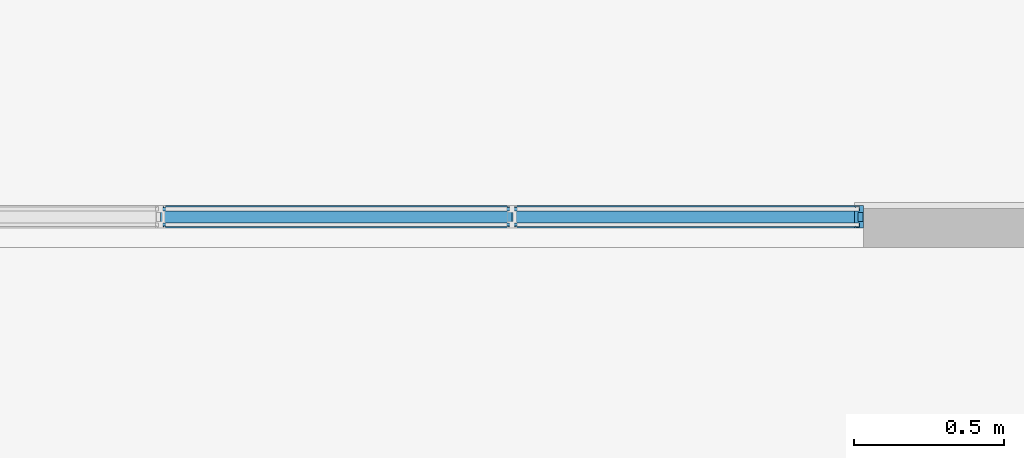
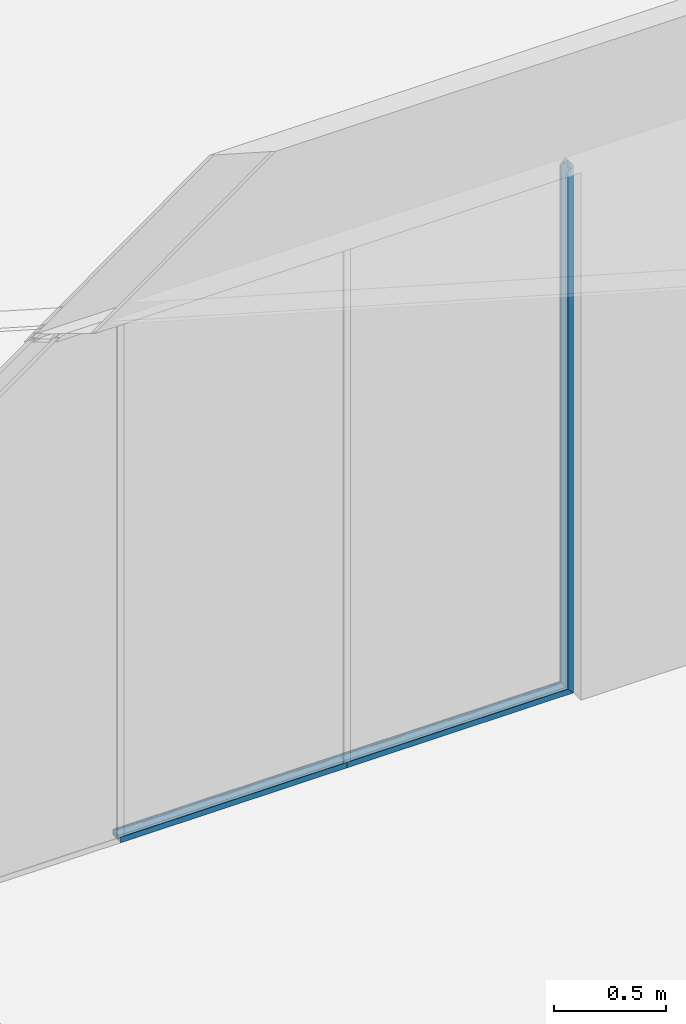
# One storey, part 17 of 43: 3 members, 1 element without a shape of its own.
"""IFC2X3 building model written with IfcOpenShell, lengths in millimetres."""

from ifc_helpers import new_model, entity, si_unit, converted_unit, derived_unit, money_unit, direction, frame, origin_with_axes, place, context, subcontext, project, spatial, faceted_brep, material, material_list, type_object, element, aggregate, save


model = new_model("IFC2X3")

# Units and contexts
model_context = context("Model", 3, precision=0.01, world=origin_with_axes(), true_north=direction((0.0, 1.0)))
body_context = subcontext(model_context, "Body", "Model", "MODEL_VIEW")
ifc_project = project(units=[si_unit("LENGTHUNIT", "METRE", prefix="MILLI"), si_unit("AREAUNIT", "SQUARE_METRE"), si_unit("VOLUMEUNIT", "CUBIC_METRE"), converted_unit("PLANEANGLEUNIT", "DEGREE", entity("IfcPlaneAngleMeasure", 0.0174532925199), si_unit("PLANEANGLEUNIT", "RADIAN"), dimensions=[0, 0, 0, 0, 0, 0, 0]), si_unit("SOLIDANGLEUNIT", "STERADIAN"), money_unit("EUR"), converted_unit("TIMEUNIT", "Year", entity("IfcTimeMeasure", 31556926.0), si_unit("TIMEUNIT", "SECOND"), dimensions=[0, 0, 1, 0, 0, 0, 0]), si_unit("MASSUNIT", "GRAM", prefix="KILO"), si_unit("THERMODYNAMICTEMPERATUREUNIT", "DEGREE_CELSIUS"), si_unit("LUMINOUSINTENSITYUNIT", "LUMEN"), si_unit("ENERGYUNIT", "JOULE", prefix="MEGA"), derived_unit("THERMALCONDUCTANCEUNIT", [(si_unit("POWERUNIT", "WATT"), 1), (si_unit("LENGTHUNIT", "METRE"), -1), (si_unit("THERMODYNAMICTEMPERATUREUNIT", "KELVIN"), -1)]), derived_unit("SPECIFICHEATCAPACITYUNIT", [(si_unit("ENERGYUNIT", "JOULE"), 1), (si_unit("MASSUNIT", "GRAM", prefix="KILO"), -1), (si_unit("THERMODYNAMICTEMPERATUREUNIT", "KELVIN"), -1)]), derived_unit("MASSDENSITYUNIT", [(si_unit("MASSUNIT", "GRAM", prefix="KILO"), 1), (si_unit("VOLUMEUNIT", "CUBIC_METRE"), -1)])], contexts=[model_context])

# Site, building, storey
site_placement = place(None, origin_with_axes())
site = spatial("IfcSite", under=ifc_project, at=site_placement, Name="L.Koidula tn 11b", CompositionType="ELEMENT")
building_placement = place(site_placement, origin_with_axes())
building = spatial("IfcBuilding", under=site, at=building_placement, Name="Rakvere Riigigümnaasium", CompositionType="ELEMENT")
storey_placement = place(building_placement, frame((0.0, 0.0, 6665.0), z_axis=(0.0, 0.0, 1.0), x_axis=(1.0, 0.0, 0.0)))
storey = spatial("IfcBuildingStorey", under=building, at=storey_placement, Name="3.korrus +6,66", CompositionType="ELEMENT", Elevation=6665.0)

# Curtain wall, members
curtain_wall_type = type_object("IfcCurtainWallType", Name="Curtain Wall Type", PredefinedType="NOTDEFINED")
curtain_wall_placement = place(storey_placement, frame((61105.020931, 24378.4555472, 0.0), z_axis=(0.0, 0.0, 1.0), x_axis=(1.0, 0.0, 0.0)))
curtain_wall = element("IfcCurtainWall", 1, at=curtain_wall_placement, inside=storey, type_object=curtain_wall_type, Name="SKLF-28")
ifc_material_1 = material(Name="Klaasvill")
ifc_material_2 = material(Name="Teras RAL7012")
ifc_material_list = material_list([ifc_material_1, ifc_material_2])
member_type = type_object("IfcMemberType", Name="Boundary Frame 30 x 42", PredefinedType="MULLION")
member_1_placement = place(curtain_wall_placement, frame((585.0, 0.0, 0.0), z_axis=(-1.0, 0.0, 0.0), x_axis=(0.0, 0.0, 1.0)))
member_1 = element("IfcMember", 2, at=member_1_placement, type_object=member_type, material=ifc_material_list, Name="SKLF-72-raam", ObjectType="MULLION", context=body_context, shape_type="Brep", body=[
    faceted_brep([(13.8499999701, 15.000000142, 13.8499999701), (13.8499999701, 15.000000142, 1170.0), (7.49999990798, 15.000000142, 1170.0), (7.49999990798, 15.000000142, 7.49999990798), (13.8499999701, 29.0161444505, 13.8499999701), (13.8499999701, 29.0161444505, 1170.0), (7.49999990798, 29.0161444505, 1170.0), (7.49999990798, 29.0161444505, 7.49999990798)], [[[0, 1, 2, 3]], [[4, 5, 1, 0]], [[2, 1, 5, 6]], [[3, 2, 6, 7]], [[3, 7, 4, 0]], [[7, 6, 5, 4]]]),
    faceted_brep([(25.004489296, 27.0307503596, 25.004489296), (25.004489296, 27.0307503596, 1170.0), (24.987414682, 29.0161444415, 1170.0), (24.987414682, 29.0161444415, 24.987414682), (25.742237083, 26.2930025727, 25.742237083), (25.742237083, 26.2930025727, 1170.0), (26.7500193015, 26.0229681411, 1170.0), (27.75780152, 26.2930025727, 1170.0), (28.4955493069, 27.0307503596, 1170.0), (28.7655837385, 28.0385325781, 1170.0), (28.5126239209, 29.0161444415, 1170.0), (28.5126239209, 29.0161444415, 28.5126239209), (28.7655837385, 28.0385325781, 28.7655837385), (28.4955493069, 27.0307503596, 28.4955493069), (27.75780152, 26.2930025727, 27.75780152), (26.7500193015, 26.0229681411, 26.7500193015)], [[[0, 1, 2, 3]], [[4, 5, 1, 0]], [[2, 1, 5, 6, 7, 8, 9, 10]], [[3, 2, 10, 11]], [[3, 11, 12, 13, 14, 15, 4, 0]], [[15, 6, 5, 4]], [[14, 7, 6, 15]], [[13, 8, 7, 14]], [[12, 9, 8, 13]], [[11, 10, 9, 12]]]),
    faceted_brep([(7.49999990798, -39.0161445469, 7.49999990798), (7.49999990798, -39.0161445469, 1170.0), (7.49999990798, -24.9999997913, 1170.0), (7.49999990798, -24.9999997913, 7.49999990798), (13.8499999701, -39.0161445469, 13.8499999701), (13.8499999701, -39.0161445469, 1170.0), (13.8499999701, -24.9999997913, 1170.0), (13.8499999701, -24.9999997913, 13.8499999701)], [[[0, 1, 2, 3]], [[4, 5, 1, 0]], [[2, 1, 5, 6]], [[3, 2, 6, 7]], [[3, 7, 4, 0]], [[7, 6, 5, 4]]]),
    faceted_brep([(24.987414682, -39.0161444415, 24.987414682), (24.987414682, -39.0161444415, 1170.0), (25.004489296, -37.0307503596, 1170.0), (25.004489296, -37.0307503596, 25.004489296), (28.5126239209, -39.0161444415, 28.5126239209), (28.5126239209, -39.0161444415, 1170.0), (28.7655837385, -38.0385325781, 1170.0), (28.4955493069, -37.0307503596, 1170.0), (27.75780152, -36.2930025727, 1170.0), (26.7500193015, -36.0229681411, 1170.0), (25.742237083, -36.2930025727, 1170.0), (25.742237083, -36.2930025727, 25.742237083), (26.7500193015, -36.0229681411, 26.7500193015), (27.75780152, -36.2930025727, 27.75780152), (28.4955493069, -37.0307503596, 28.4955493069), (28.7655837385, -38.0385325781, 28.7655837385)], [[[0, 1, 2, 3]], [[4, 5, 1, 0]], [[2, 1, 5, 6, 7, 8, 9, 10]], [[3, 2, 10, 11]], [[3, 11, 12, 13, 14, 15, 4, 0]], [[15, 6, 5, 4]], [[14, 7, 6, 15]], [[13, 8, 7, 14]], [[12, 9, 8, 13]], [[11, 10, 9, 12]]]),
    faceted_brep([(29.5999996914, -22.0000000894, 29.5999996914), (29.5999996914, -22.0000000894, 1170.0), (0.0, -22.0000000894, 1170.0), (0.0, -22.0000000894, 0.0), (29.5999996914, 12.0000000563, 29.5999996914), (29.5999996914, 12.0000000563, 1170.0), (0.0, 12.0000000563, 1170.0), (1.9999999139, 10.0000001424, 1170.0), (18.7999996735, 10.0000001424, 1170.0), (18.7999996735, -20.0000001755, 1170.0), (1.9999999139, -20.0000001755, 1170.0), (0.0, 12.0000000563, 0.0), (1.9999999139, 10.0000001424, 1.9999999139), (1.9999999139, -20.0000001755, 1.9999999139), (18.7999996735, -20.0000001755, 18.7999996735), (18.7999996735, 10.0000001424, 18.7999996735)], [[[0, 1, 2, 3]], [[4, 5, 1, 0]], [[2, 1, 5, 6], [7, 8, 9, 10]], [[3, 2, 6, 11]], [[3, 11, 4, 0], [12, 13, 14, 15]], [[11, 6, 5, 4]], [[15, 8, 7, 12]], [[14, 9, 8, 15]], [[13, 10, 9, 14]], [[12, 7, 10, 13]]]),
    faceted_brep([(29.5999996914, 12.0000000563, 29.5999996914), (29.5999996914, 12.0000000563, 1170.0), (0.0, 12.0, 1170.0), (0.0, 12.0, 0.0), (30.0000193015, 12.0, 30.0000193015), (30.0000193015, 12.0, 1170.0), (30.0000193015, 15.0, 1170.0), (13.8499999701, 15.000000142, 1170.0), (7.49999999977, 15.0, 1170.0), (7.49999999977, 29.0161444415, 1170.0), (13.8499999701, 29.0161444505, 1170.0), (24.987414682, 29.0161444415, 1170.0), (28.5126239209, 29.0161444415, 1170.0), (30.0000193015, 29.0161444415, 1170.0), (30.0000193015, 32.0, 1170.0), (0.0, 32.0, 1170.0), (0.0, 32.0, 0.0), (30.0000193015, 32.0, 30.0000193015), (30.0000193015, 29.0161444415, 30.0000193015), (28.5126239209, 29.0161444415, 28.5126239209), (24.987414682, 29.0161444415, 24.987414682), (13.8499999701, 29.0161444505, 13.8499999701), (7.49999999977, 29.0161444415, 7.49999999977), (7.49999999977, 15.0, 7.49999999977), (13.8499999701, 15.000000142, 13.8499999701), (30.0000193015, 15.0, 30.0000193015)], [[[0, 1, 2, 3]], [[4, 5, 1, 0]], [[2, 1, 5, 6, 7, 8, 9, 10, 11, 12, 13, 14, 15]], [[3, 2, 15, 16]], [[3, 16, 17, 18, 19, 20, 21, 22, 23, 24, 25, 4, 0]], [[25, 6, 5, 4]], [[24, 7, 6, 25]], [[23, 8, 7, 24]], [[22, 9, 8, 23]], [[21, 10, 9, 22]], [[20, 11, 10, 21]], [[19, 12, 11, 20]], [[18, 13, 12, 19]], [[17, 14, 13, 18]], [[16, 15, 14, 17]]]),
    faceted_brep([(0.0, -42.0, 0.0), (0.0, -42.0, 1170.0), (0.0, -22.0, 1170.0), (0.0, -22.0, 0.0), (30.0000193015, -42.0, 30.0000193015), (30.0000193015, -42.0, 1170.0), (30.0000193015, -39.0161444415, 1170.0), (28.5126239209, -39.0161444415, 1170.0), (24.987414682, -39.0161444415, 1170.0), (13.8499999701, -39.0161445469, 1170.0), (7.49999999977, -39.0161444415, 1170.0), (7.49999999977, -25.0, 1170.0), (13.8499999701, -24.9999997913, 1170.0), (30.0000193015, -25.0, 1170.0), (30.0000193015, -22.0, 1170.0), (29.5999996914, -22.0000000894, 1170.0), (29.5999996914, -22.0000000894, 29.5999996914), (30.0000193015, -22.0, 30.0000193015), (30.0000193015, -25.0, 30.0000193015), (13.8499999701, -24.9999997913, 13.8499999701), (7.49999999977, -25.0, 7.49999999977), (7.49999999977, -39.0161444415, 7.49999999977), (13.8499999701, -39.0161445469, 13.8499999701), (24.987414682, -39.0161444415, 24.987414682), (28.5126239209, -39.0161444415, 28.5126239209), (30.0000193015, -39.0161444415, 30.0000193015)], [[[0, 1, 2, 3]], [[4, 5, 1, 0]], [[2, 1, 5, 6, 7, 8, 9, 10, 11, 12, 13, 14, 15]], [[3, 2, 15, 16]], [[3, 16, 17, 18, 19, 20, 21, 22, 23, 24, 25, 4, 0]], [[25, 6, 5, 4]], [[24, 7, 6, 25]], [[23, 8, 7, 24]], [[22, 9, 8, 23]], [[21, 10, 9, 22]], [[20, 11, 10, 21]], [[19, 12, 11, 20]], [[18, 13, 12, 19]], [[17, 14, 13, 18]], [[16, 15, 14, 17]]]),
])
member_2_placement = place(curtain_wall_placement, frame((585.0, 0.0, 0.0), z_axis=(0.0, 0.0, 1.0), x_axis=(1.0, 0.0, 0.0)))
member_2 = element("IfcMember", 3, at=member_2_placement, type_object=member_type, material=ifc_material_list, Name="SKLF-71-raam", ObjectType="MULLION", context=body_context, shape_type="Brep", body=[
    faceted_brep([(-13.8499999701, 15.000000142, 13.8499999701), (-7.49999990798, 15.000000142, 7.49999990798), (-7.49999990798, 15.000000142, 2872.50001216), (-13.8499999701, 15.000000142, 2866.1500121), (-13.8499999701, 29.0161444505, 13.8499999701), (-7.49999990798, 29.0161444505, 7.49999990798), (-7.49999990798, 29.0161444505, 2872.50001216), (-13.8499999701, 29.0161444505, 2866.1500121)], [[[0, 1, 2, 3]], [[1, 0, 4, 5]], [[1, 5, 6, 2]], [[2, 6, 7, 3]], [[4, 0, 3, 7]], [[5, 4, 7, 6]]]),
    faceted_brep([(-25.004489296, 27.0307503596, 25.004489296), (-24.987414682, 29.0161444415, 24.987414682), (-24.987414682, 29.0161444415, 2855.01259739), (-25.004489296, 27.0307503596, 2854.99552277), (-25.742237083, 26.2930025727, 25.742237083), (-26.7500193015, 26.0229681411, 26.7500193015), (-27.75780152, 26.2930025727, 27.75780152), (-28.4955493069, 27.0307503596, 28.4955493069), (-28.7655837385, 28.0385325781, 28.7655837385), (-28.5126239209, 29.0161444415, 28.5126239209), (-28.5126239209, 29.0161444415, 2851.48738815), (-28.7655837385, 28.0385325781, 2851.23442833), (-28.4955493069, 27.0307503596, 2851.50446276), (-27.75780152, 26.2930025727, 2852.24221055), (-26.7500193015, 26.0229681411, 2853.24999277), (-25.742237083, 26.2930025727, 2854.25777499)], [[[0, 1, 2, 3]], [[1, 0, 4, 5, 6, 7, 8, 9]], [[1, 9, 10, 2]], [[2, 10, 11, 12, 13, 14, 15, 3]], [[4, 0, 3, 15]], [[5, 4, 15, 14]], [[6, 5, 14, 13]], [[7, 6, 13, 12]], [[8, 7, 12, 11]], [[9, 8, 11, 10]]]),
    faceted_brep([(-7.49999990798, -39.0161445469, 7.49999990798), (-7.49999990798, -24.9999997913, 7.49999990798), (-7.49999990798, -24.9999997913, 2872.50001216), (-7.49999990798, -39.0161445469, 2872.50001216), (-13.8499999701, -39.0161445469, 13.8499999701), (-13.8499999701, -24.9999997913, 13.8499999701), (-13.8499999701, -24.9999997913, 2866.1500121), (-13.8499999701, -39.0161445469, 2866.1500121)], [[[0, 1, 2, 3]], [[1, 0, 4, 5]], [[1, 5, 6, 2]], [[2, 6, 7, 3]], [[4, 0, 3, 7]], [[5, 4, 7, 6]]]),
    faceted_brep([(-24.987414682, -39.0161444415, 24.987414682), (-25.004489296, -37.0307503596, 25.004489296), (-25.004489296, -37.0307503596, 2854.99552277), (-24.987414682, -39.0161444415, 2855.01259739), (-28.5126239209, -39.0161444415, 28.5126239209), (-28.7655837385, -38.0385325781, 28.7655837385), (-28.4955493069, -37.0307503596, 28.4955493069), (-27.75780152, -36.2930025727, 27.75780152), (-26.7500193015, -36.0229681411, 26.7500193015), (-25.742237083, -36.2930025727, 25.742237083), (-25.742237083, -36.2930025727, 2854.25777499), (-26.7500193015, -36.0229681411, 2853.24999277), (-27.75780152, -36.2930025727, 2852.24221055), (-28.4955493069, -37.0307503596, 2851.50446276), (-28.7655837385, -38.0385325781, 2851.23442833), (-28.5126239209, -39.0161444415, 2851.48738815)], [[[0, 1, 2, 3]], [[1, 0, 4, 5, 6, 7, 8, 9]], [[1, 9, 10, 2]], [[2, 10, 11, 12, 13, 14, 15, 3]], [[4, 0, 3, 15]], [[5, 4, 15, 14]], [[6, 5, 14, 13]], [[7, 6, 13, 12]], [[8, 7, 12, 11]], [[9, 8, 11, 10]]]),
    faceted_brep([(-29.5999996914, -22.0000000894, 29.5999996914), (0.0, -22.0000000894, 0.0), (0.0, -22.0000000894, 2880.00001207), (-29.5999996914, -22.0000000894, 2850.40001238), (-29.5999996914, 12.0000000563, 29.5999996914), (0.0, 12.0000000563, 0.0), (-1.9999999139, 10.0000001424, 1.9999999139), (-18.7999996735, 10.0000001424, 18.7999996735), (-18.7999996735, -20.0000001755, 18.7999996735), (-1.9999999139, -20.0000001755, 1.9999999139), (0.0, 12.0000000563, 2880.00001207), (-29.5999996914, 12.0000000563, 2850.40001238), (-1.9999999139, 10.0000001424, 2878.00001216), (-1.9999999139, -20.0000001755, 2878.00001216), (-18.7999996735, -20.0000001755, 2861.2000124), (-18.7999996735, 10.0000001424, 2861.2000124)], [[[0, 1, 2, 3]], [[1, 0, 4, 5], [6, 7, 8, 9]], [[1, 5, 10, 2]], [[2, 10, 11, 3], [12, 13, 14, 15]], [[4, 0, 3, 11]], [[5, 4, 11, 10]], [[7, 6, 12, 15]], [[8, 7, 15, 14]], [[9, 8, 14, 13]], [[6, 9, 13, 12]]]),
    faceted_brep([(-29.5999996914, 12.0000000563, 29.5999996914), (0.0, 12.0, 0.0), (0.0, 12.0, 2880.00001207), (-29.5999996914, 12.0000000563, 2850.40001238), (-30.0000193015, 12.0, 30.0000193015), (-30.0000193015, 15.0, 30.0000193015), (-13.8499999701, 15.000000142, 13.8499999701), (-7.49999999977, 15.0, 7.49999999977), (-7.49999999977, 29.0161444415, 7.49999999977), (-13.8499999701, 29.0161444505, 13.8499999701), (-24.987414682, 29.0161444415, 24.987414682), (-28.5126239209, 29.0161444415, 28.5126239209), (-30.0000193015, 29.0161444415, 30.0000193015), (-30.0000193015, 32.0, 30.0000193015), (0.0, 32.0, 0.0), (0.0, 32.0, 2880.00001207), (-30.0000193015, 32.0, 2849.99999277), (-30.0000193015, 29.0161444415, 2849.99999277), (-28.5126239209, 29.0161444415, 2851.48738815), (-24.987414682, 29.0161444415, 2855.01259739), (-13.8499999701, 29.0161444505, 2866.1500121), (-7.49999999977, 29.0161444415, 2872.50001207), (-7.49999999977, 15.0, 2872.50001207), (-13.8499999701, 15.000000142, 2866.1500121), (-30.0000193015, 15.0, 2849.99999277), (-30.0000193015, 12.0, 2849.99999277)], [[[0, 1, 2, 3]], [[1, 0, 4, 5, 6, 7, 8, 9, 10, 11, 12, 13, 14]], [[1, 14, 15, 2]], [[2, 15, 16, 17, 18, 19, 20, 21, 22, 23, 24, 25, 3]], [[4, 0, 3, 25]], [[5, 4, 25, 24]], [[6, 5, 24, 23]], [[7, 6, 23, 22]], [[8, 7, 22, 21]], [[9, 8, 21, 20]], [[10, 9, 20, 19]], [[11, 10, 19, 18]], [[12, 11, 18, 17]], [[13, 12, 17, 16]], [[14, 13, 16, 15]]]),
    faceted_brep([(0.0, -42.0, 0.0), (0.0, -22.0, 0.0), (0.0, -22.0, 2880.00001207), (0.0, -42.0, 2880.00001207), (-30.0000193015, -42.0, 30.0000193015), (-30.0000193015, -39.0161444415, 30.0000193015), (-28.5126239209, -39.0161444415, 28.5126239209), (-24.987414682, -39.0161444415, 24.987414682), (-13.8499999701, -39.0161445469, 13.8499999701), (-7.49999999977, -39.0161444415, 7.49999999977), (-7.49999999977, -25.0, 7.49999999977), (-13.8499999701, -24.9999997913, 13.8499999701), (-30.0000193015, -25.0, 30.0000193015), (-30.0000193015, -22.0, 30.0000193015), (-29.5999996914, -22.0000000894, 29.5999996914), (-29.5999996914, -22.0000000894, 2850.40001238), (-30.0000193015, -22.0, 2849.99999277), (-30.0000193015, -25.0, 2849.99999277), (-13.8499999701, -24.9999997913, 2866.1500121), (-7.49999999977, -25.0, 2872.50001207), (-7.49999999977, -39.0161444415, 2872.50001207), (-13.8499999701, -39.0161445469, 2866.1500121), (-24.987414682, -39.0161444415, 2855.01259739), (-28.5126239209, -39.0161444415, 2851.48738815), (-30.0000193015, -39.0161444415, 2849.99999277), (-30.0000193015, -42.0, 2849.99999277)], [[[0, 1, 2, 3]], [[1, 0, 4, 5, 6, 7, 8, 9, 10, 11, 12, 13, 14]], [[1, 14, 15, 2]], [[2, 15, 16, 17, 18, 19, 20, 21, 22, 23, 24, 25, 3]], [[4, 0, 3, 25]], [[5, 4, 25, 24]], [[6, 5, 24, 23]], [[7, 6, 23, 22]], [[8, 7, 22, 21]], [[9, 8, 21, 20]], [[10, 9, 20, 19]], [[11, 10, 19, 18]], [[12, 11, 18, 17]], [[13, 12, 17, 16]], [[14, 13, 16, 15]]]),
])
member_3_placement = place(curtain_wall_placement, frame((-585.0, 0.0, 0.0), z_axis=(-1.0, 0.0, 0.0), x_axis=(0.0, 0.0, 1.0)))
member_3 = element("IfcMember", 4, at=member_3_placement, type_object=member_type, material=ifc_material_list, Name="SKLF-73-raam", ObjectType="MULLION", context=body_context, shape_type="Brep", body=[
    faceted_brep([(7.49999990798, 15.000000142, 0.0), (13.8499999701, 15.000000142, 0.0), (13.8499999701, 15.000000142, 1170.0), (7.49999990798, 15.000000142, 1170.0), (7.49999990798, 29.0161444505, 0.0), (13.8499999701, 29.0161444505, 0.0), (13.8499999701, 29.0161444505, 1170.0), (7.49999990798, 29.0161444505, 1170.0)], [[[0, 1, 2, 3]], [[0, 4, 5, 1]], [[1, 5, 6, 2]], [[3, 2, 6, 7]], [[4, 0, 3, 7]], [[5, 4, 7, 6]]]),
    faceted_brep([(24.987414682, 29.0161444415, 0.0), (25.004489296, 27.0307503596, 0.0), (25.004489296, 27.0307503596, 1170.0), (24.987414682, 29.0161444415, 1170.0), (28.5126239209, 29.0161444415, 0.0), (28.7655837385, 28.0385325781, 0.0), (28.4955493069, 27.0307503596, 0.0), (27.75780152, 26.2930025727, 0.0), (26.7500193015, 26.0229681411, 0.0), (25.742237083, 26.2930025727, 0.0), (25.742237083, 26.2930025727, 1170.0), (26.7500193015, 26.0229681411, 1170.0), (27.75780152, 26.2930025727, 1170.0), (28.4955493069, 27.0307503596, 1170.0), (28.7655837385, 28.0385325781, 1170.0), (28.5126239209, 29.0161444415, 1170.0)], [[[0, 1, 2, 3]], [[0, 4, 5, 6, 7, 8, 9, 1]], [[1, 9, 10, 2]], [[3, 2, 10, 11, 12, 13, 14, 15]], [[4, 0, 3, 15]], [[5, 4, 15, 14]], [[6, 5, 14, 13]], [[7, 6, 13, 12]], [[8, 7, 12, 11]], [[9, 8, 11, 10]]]),
    faceted_brep([(7.49999990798, -24.9999997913, 0.0), (7.49999990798, -39.0161445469, 0.0), (7.49999990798, -39.0161445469, 1170.0), (7.49999990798, -24.9999997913, 1170.0), (13.8499999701, -24.9999997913, 0.0), (13.8499999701, -39.0161445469, 0.0), (13.8499999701, -39.0161445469, 1170.0), (13.8499999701, -24.9999997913, 1170.0)], [[[0, 1, 2, 3]], [[0, 4, 5, 1]], [[1, 5, 6, 2]], [[3, 2, 6, 7]], [[4, 0, 3, 7]], [[5, 4, 7, 6]]]),
    faceted_brep([(25.004489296, -37.0307503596, 0.0), (24.987414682, -39.0161444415, 0.0), (24.987414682, -39.0161444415, 1170.0), (25.004489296, -37.0307503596, 1170.0), (25.742237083, -36.2930025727, 0.0), (26.7500193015, -36.0229681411, 0.0), (27.75780152, -36.2930025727, 0.0), (28.4955493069, -37.0307503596, 0.0), (28.7655837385, -38.0385325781, 0.0), (28.5126239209, -39.0161444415, 0.0), (28.5126239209, -39.0161444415, 1170.0), (28.7655837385, -38.0385325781, 1170.0), (28.4955493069, -37.0307503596, 1170.0), (27.75780152, -36.2930025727, 1170.0), (26.7500193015, -36.0229681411, 1170.0), (25.742237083, -36.2930025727, 1170.0)], [[[0, 1, 2, 3]], [[0, 4, 5, 6, 7, 8, 9, 1]], [[1, 9, 10, 2]], [[3, 2, 10, 11, 12, 13, 14, 15]], [[4, 0, 3, 15]], [[5, 4, 15, 14]], [[6, 5, 14, 13]], [[7, 6, 13, 12]], [[8, 7, 12, 11]], [[9, 8, 11, 10]]]),
    faceted_brep([(0.0, -22.0000000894, 0.0), (29.5999996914, -22.0000000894, 0.0), (29.5999996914, -22.0000000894, 1170.0), (0.0, -22.0000000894, 1170.0), (0.0, 12.0000000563, 0.0), (29.5999996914, 12.0000000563, 0.0), (1.9999999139, 10.0000001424, 0.0), (1.9999999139, -20.0000001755, 0.0), (18.7999996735, -20.0000001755, 0.0), (18.7999996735, 10.0000001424, 0.0), (29.5999996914, 12.0000000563, 1170.0), (0.0, 12.0000000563, 1170.0), (1.9999999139, 10.0000001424, 1170.0), (18.7999996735, 10.0000001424, 1170.0), (18.7999996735, -20.0000001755, 1170.0), (1.9999999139, -20.0000001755, 1170.0)], [[[0, 1, 2, 3]], [[0, 4, 5, 1], [6, 7, 8, 9]], [[1, 5, 10, 2]], [[3, 2, 10, 11], [12, 13, 14, 15]], [[4, 0, 3, 11]], [[5, 4, 11, 10]], [[7, 6, 12, 15]], [[8, 7, 15, 14]], [[9, 8, 14, 13]], [[6, 9, 13, 12]]]),
    faceted_brep([(0.0, 12.0, 0.0), (29.5999996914, 12.0000000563, 0.0), (29.5999996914, 12.0000000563, 1170.0), (0.0, 12.0, 1170.0), (0.0, 32.0, 0.0), (30.0000193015, 32.0, 0.0), (30.0000193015, 29.0161444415, 0.0), (28.5126239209, 29.0161444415, 0.0), (24.987414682, 29.0161444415, 0.0), (13.8499999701, 29.0161444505, 0.0), (7.49999999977, 29.0161444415, 0.0), (7.49999999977, 15.0, 0.0), (13.8499999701, 15.000000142, 0.0), (30.0000193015, 15.0, 0.0), (30.0000193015, 12.0, 0.0), (30.0000193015, 12.0, 1170.0), (30.0000193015, 15.0, 1170.0), (13.8499999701, 15.000000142, 1170.0), (7.49999999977, 15.0, 1170.0), (7.49999999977, 29.0161444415, 1170.0), (13.8499999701, 29.0161444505, 1170.0), (24.987414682, 29.0161444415, 1170.0), (28.5126239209, 29.0161444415, 1170.0), (30.0000193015, 29.0161444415, 1170.0), (30.0000193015, 32.0, 1170.0), (0.0, 32.0, 1170.0)], [[[0, 1, 2, 3]], [[0, 4, 5, 6, 7, 8, 9, 10, 11, 12, 13, 14, 1]], [[1, 14, 15, 2]], [[3, 2, 15, 16, 17, 18, 19, 20, 21, 22, 23, 24, 25]], [[4, 0, 3, 25]], [[5, 4, 25, 24]], [[6, 5, 24, 23]], [[7, 6, 23, 22]], [[8, 7, 22, 21]], [[9, 8, 21, 20]], [[10, 9, 20, 19]], [[11, 10, 19, 18]], [[12, 11, 18, 17]], [[13, 12, 17, 16]], [[14, 13, 16, 15]]]),
    faceted_brep([(0.0, -22.0, 0.0), (0.0, -42.0, 0.0), (0.0, -42.0, 1170.0), (0.0, -22.0, 1170.0), (29.5999996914, -22.0000000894, 0.0), (30.0000193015, -22.0, 0.0), (30.0000193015, -25.0, 0.0), (13.8499999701, -24.9999997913, 0.0), (7.49999999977, -25.0, 0.0), (7.49999999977, -39.0161444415, 0.0), (13.8499999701, -39.0161445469, 0.0), (24.987414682, -39.0161444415, 0.0), (28.5126239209, -39.0161444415, 0.0), (30.0000193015, -39.0161444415, 0.0), (30.0000193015, -42.0, 0.0), (30.0000193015, -42.0, 1170.0), (30.0000193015, -39.0161444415, 1170.0), (28.5126239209, -39.0161444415, 1170.0), (24.987414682, -39.0161444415, 1170.0), (13.8499999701, -39.0161445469, 1170.0), (7.49999999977, -39.0161444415, 1170.0), (7.49999999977, -25.0, 1170.0), (13.8499999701, -24.9999997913, 1170.0), (30.0000193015, -25.0, 1170.0), (30.0000193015, -22.0, 1170.0), (29.5999996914, -22.0000000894, 1170.0)], [[[0, 1, 2, 3]], [[0, 4, 5, 6, 7, 8, 9, 10, 11, 12, 13, 14, 1]], [[1, 14, 15, 2]], [[3, 2, 15, 16, 17, 18, 19, 20, 21, 22, 23, 24, 25]], [[4, 0, 3, 25]], [[5, 4, 25, 24]], [[6, 5, 24, 23]], [[7, 6, 23, 22]], [[8, 7, 22, 21]], [[9, 8, 21, 20]], [[10, 9, 20, 19]], [[11, 10, 19, 18]], [[12, 11, 18, 17]], [[13, 12, 17, 16]], [[14, 13, 16, 15]]]),
])
aggregate(curtain_wall, [member_1, member_2, member_3])

save(model, "model.ifc")
